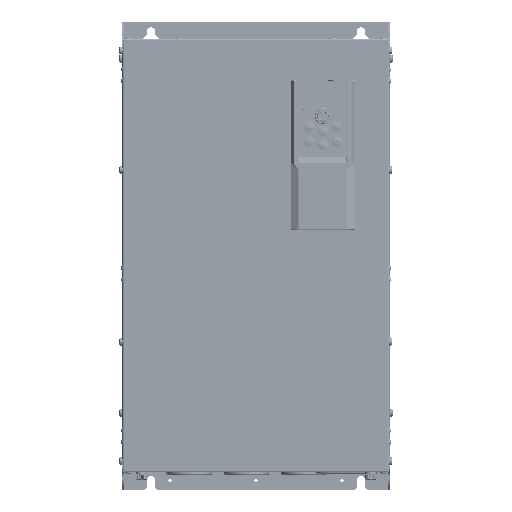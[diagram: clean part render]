
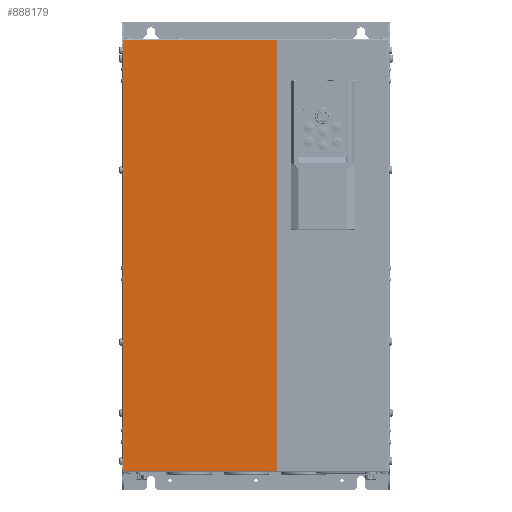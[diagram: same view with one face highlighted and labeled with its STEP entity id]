
A CAD part, top view. The second image highlights one B-rep face of the part: STEP entity #888179.
In plain terms, the highlighted planar face has unit normal (0, 0, 1).
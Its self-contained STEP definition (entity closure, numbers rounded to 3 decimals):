
#886461=DIRECTION('',(0.,-1.,0.));
#886462=VECTOR('',#886461,451.);
#886463=CARTESIAN_POINT('',(22.,450.5,145.5));
#886464=LINE('',#886463,#886462);
#886468=DIRECTION('',(-1.,0.,0.));
#886469=VECTOR('',#886468,160.);
#886470=CARTESIAN_POINT('',(22.,-0.5,145.5));
#886471=LINE('',#886470,#886469);
#886475=DIRECTION('',(-1.,0.,0.));
#886476=VECTOR('',#886475,160.);
#886477=CARTESIAN_POINT('',(22.,450.5,145.5));
#886478=LINE('',#886477,#886476);
#886518=DIRECTION('',(0.,1.,0.));
#886519=VECTOR('',#886518,451.);
#886520=CARTESIAN_POINT('',(-138.,-0.5,145.5));
#886521=LINE('',#886520,#886519);
#887711=CARTESIAN_POINT('',(22.,450.5,145.5));
#887712=CARTESIAN_POINT('',(22.,-0.5,145.5));
#887713=VERTEX_POINT('',#887711);
#887714=VERTEX_POINT('',#887712);
#887871=CARTESIAN_POINT('',(-138.,450.5,145.5));
#887872=VERTEX_POINT('',#887871);
#887876=CARTESIAN_POINT('',(-138.,-0.5,145.5));
#887878=VERTEX_POINT('',#887876);
#888167=CARTESIAN_POINT('',(-139.5,452.,145.5));
#888168=DIRECTION('',(0.,0.,1.));
#888169=DIRECTION('',(0.,-1.,0.));
#888170=AXIS2_PLACEMENT_3D('',#888167,#888168,#888169);
#888171=PLANE('',#888170);
#888172=ORIENTED_EDGE('',*,*,#888159,.T.);
#888173=ORIENTED_EDGE('',*,*,#888087,.T.);
#888175=ORIENTED_EDGE('',*,*,#888174,.T.);
#888176=ORIENTED_EDGE('',*,*,#888139,.F.);
#888177=EDGE_LOOP('',(#888172,#888173,#888175,#888176));
#888178=FACE_OUTER_BOUND('',#888177,.F.);
#888179=ADVANCED_FACE('',(#888178),#888171,.T.);
#888087=EDGE_CURVE('',#887714,#887878,#886471,.T.);
#888139=EDGE_CURVE('',#887713,#887872,#886478,.T.);
#888159=EDGE_CURVE('',#887713,#887714,#886464,.T.);
#888174=EDGE_CURVE('',#887878,#887872,#886521,.T.);
